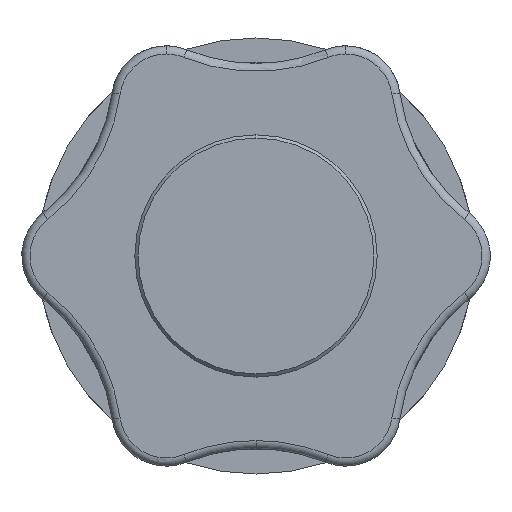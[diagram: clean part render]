
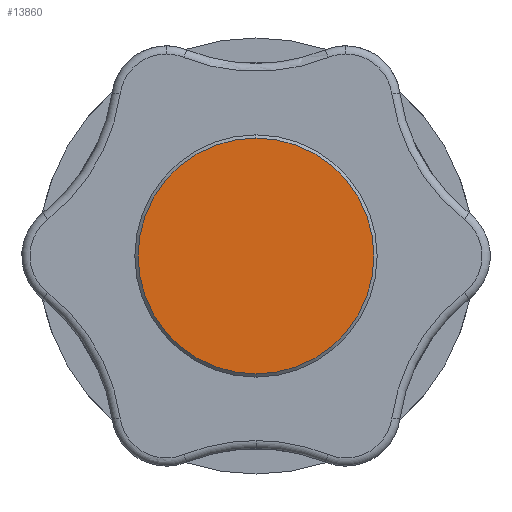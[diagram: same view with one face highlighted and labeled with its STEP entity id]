
A CAD part, left-side view. The second image highlights one B-rep face of the part: STEP entity #13860.
In plain terms, the highlighted planar face has unit normal (-1, 0, 0).
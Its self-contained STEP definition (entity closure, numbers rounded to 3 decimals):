
#419 = DIRECTION ( 'NONE',  ( -1., 0., 0. ) ) ;
#902 = CIRCLE ( 'NONE', #932, 7.3 ) ;
#932 = AXIS2_PLACEMENT_3D ( 'NONE', #4916, #419, #1971 ) ;
#986 = AXIS2_PLACEMENT_3D ( 'NONE', #13614, #6094, #2028 ) ;
#996 = DIRECTION ( 'NONE',  ( 0., 0., 1. ) ) ;
#1204 = ORIENTED_EDGE ( 'NONE', *, *, #10783, .T. ) ;
#1971 = DIRECTION ( 'NONE',  ( 0., 0., 1. ) ) ;
#2028 = DIRECTION ( 'NONE',  ( 0., 0., 1. ) ) ;
#2107 = PLANE ( 'NONE',  #4670 ) ;
#3258 = EDGE_CURVE ( 'NONE', #16366, #7896, #6670, .T. ) ;
#4670 = AXIS2_PLACEMENT_3D ( 'NONE', #16453, #5689, #996 ) ;
#4916 = CARTESIAN_POINT ( 'NONE',  ( -97.2, 0., 0. ) ) ;
#5689 = DIRECTION ( 'NONE',  ( 1., 0., 0. ) ) ;
#6094 = DIRECTION ( 'NONE',  ( -1., 0., 0. ) ) ;
#6444 = CARTESIAN_POINT ( 'NONE',  ( -97.2, 0., -7.3 ) ) ;
#6670 = CIRCLE ( 'NONE', #986, 7.3 ) ;
#7896 = VERTEX_POINT ( 'NONE', #8248 ) ;
#8248 = CARTESIAN_POINT ( 'NONE',  ( -97.2, 0., 7.3 ) ) ;
#9567 = ORIENTED_EDGE ( 'NONE', *, *, #3258, .T. ) ;
#10783 = EDGE_CURVE ( 'NONE', #7896, #16366, #902, .T. ) ;
#13614 = CARTESIAN_POINT ( 'NONE',  ( -97.2, 0., 0. ) ) ;
#13860 = ADVANCED_FACE ( 'NONE', ( #17063 ), #2107, .F. ) ;
#14731 = EDGE_LOOP ( 'NONE', ( #1204, #9567 ) ) ;
#16366 = VERTEX_POINT ( 'NONE', #6444 ) ;
#16453 = CARTESIAN_POINT ( 'NONE',  ( -97.2, 0., 0. ) ) ;
#17063 = FACE_OUTER_BOUND ( 'NONE', #14731, .T. ) ;
